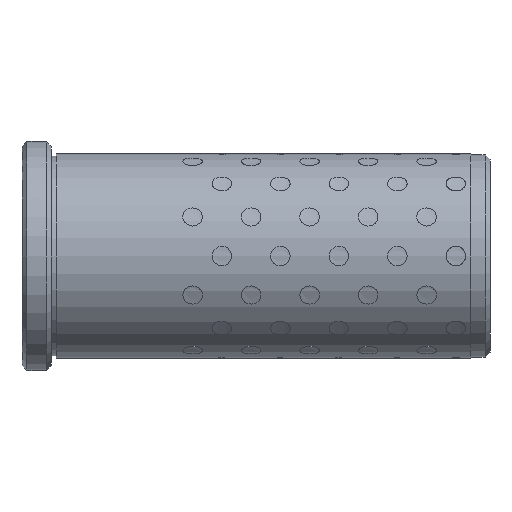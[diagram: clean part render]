
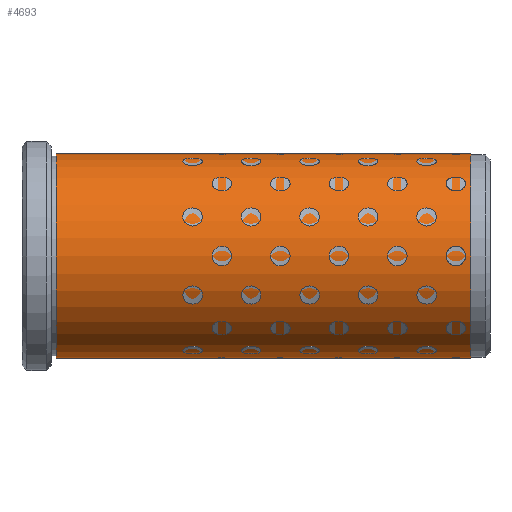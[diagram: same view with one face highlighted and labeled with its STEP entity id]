
A CAD part, left-side view. The second image highlights one B-rep face of the part: STEP entity #4693.
In plain terms, the highlighted cylindrical face has radius 21 mm (diameter 42 mm), a full revolution.
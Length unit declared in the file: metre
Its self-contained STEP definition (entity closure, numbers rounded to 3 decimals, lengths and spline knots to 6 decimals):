
#4693 = ADVANCED_FACE( '', ( #5014, #5015 ), #5016, .T. );
#5014 = FACE_OUTER_BOUND( '', #5731, .T. );
#5015 = FACE_OUTER_BOUND( '', #5732, .T. );
#5016 = CYLINDRICAL_SURFACE( '', #5733, 0.021 );
#5731 = EDGE_LOOP( '', ( #6464 ) );
#5732 = EDGE_LOOP( '', ( #6465 ) );
#5733 = AXIS2_PLACEMENT_3D( '', #6466, #6467, #6468 );
#6464 = ORIENTED_EDGE( '', *, *, #7756, .T. );
#6465 = ORIENTED_EDGE( '', *, *, #7755, .F. );
#6466 = CARTESIAN_POINT( '', ( 0., 0., 0. ) );
#6467 = DIRECTION( '', ( 0., 1., 0. ) );
#6468 = DIRECTION( '', ( 0., 0., -1. ) );
#7755 = EDGE_CURVE( '', #7970, #7970, #7971, .T. );
#7756 = EDGE_CURVE( '', #7972, #7972, #7973, .T. );
#7970 = VERTEX_POINT( '', #8384 );
#7971 = CIRCLE( '', #8385, 0.021 );
#7972 = VERTEX_POINT( '', #8386 );
#7973 = CIRCLE( '', #8387, 0.021 );
#8384 = CARTESIAN_POINT( '', ( 0., 0.004, -0.021 ) );
#8385 = AXIS2_PLACEMENT_3D( '', #18982, #18983, #18984 );
#8386 = CARTESIAN_POINT( '', ( 0., 0.089, -0.021 ) );
#8387 = AXIS2_PLACEMENT_3D( '', #18985, #18986, #18987 );
#18982 = CARTESIAN_POINT( '', ( 0., 0.004, 0. ) );
#18983 = DIRECTION( '', ( 0., -1., 0. ) );
#18984 = DIRECTION( '', ( 0., 0., -1. ) );
#18985 = CARTESIAN_POINT( '', ( 0., 0.089, 0. ) );
#18986 = DIRECTION( '', ( 0., -1., 0. ) );
#18987 = DIRECTION( '', ( 0., 0., -1. ) );
